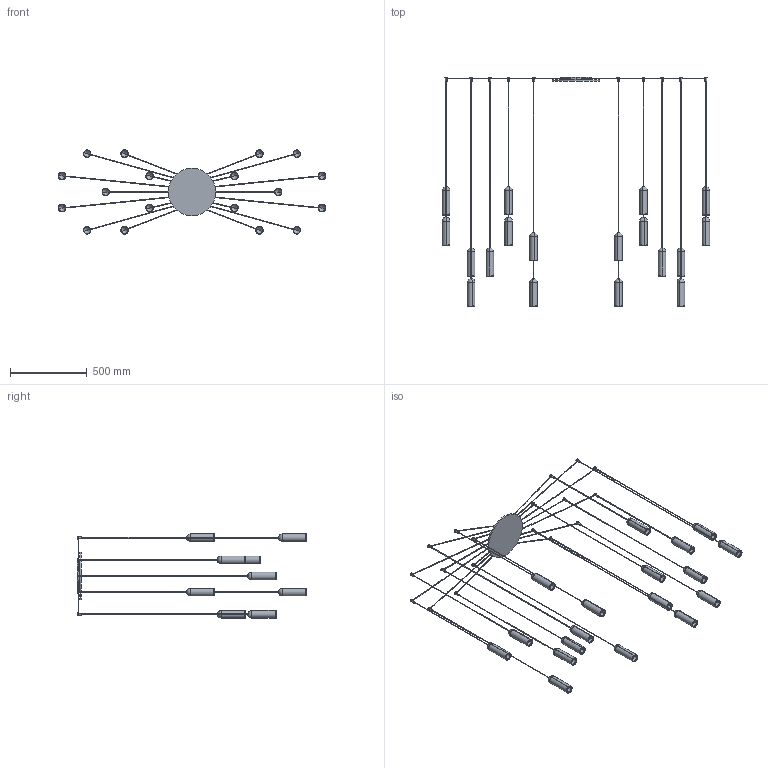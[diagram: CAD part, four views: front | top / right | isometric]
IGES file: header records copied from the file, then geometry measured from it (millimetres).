
Start section: SolidWorks IGES file using analytic representation for surfaces
Global section: file name: Y:\eforma\TECNICO\SOLIDWORKS\E-FORMA\09-LAMPADE\NANUM\08 modelli 3D web\NANB2-00-NANUM 18 B ROSONE CENTRALE.IGS; native system: SolidWorks 2022; preprocessor: SolidWorks 2022; author: eforma.tech; date: 240801.144354; units: millimetre
Bounding box: 1747.86 x 1500 x 549.99 mm (x, y, z)
Volume: 2898383.5 mm3; surface area: 1631627.5 mm2
Topology: 54 solids, 54 shells, 651 faces, 1282 edges, 740 vertices
Faces by surface type: revolution 506, plane 145
